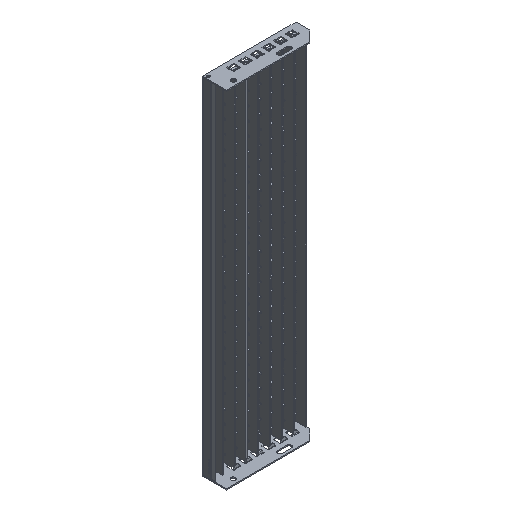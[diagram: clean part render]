
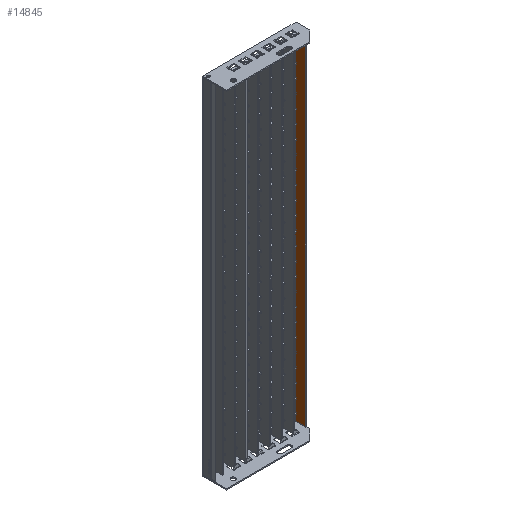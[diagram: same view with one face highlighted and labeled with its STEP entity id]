
A CAD part, isometric view. The second image highlights one B-rep face of the part: STEP entity #14845.
In plain terms, the highlighted planar face has unit normal (-1, 0, 0) as drawn and (1, 0, 0) by its records, which use the part's own axes.
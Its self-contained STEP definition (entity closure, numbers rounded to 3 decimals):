
#1657=FACE_OUTER_BOUND('',#2544,.T.);
#2544=EDGE_LOOP('',(#13747,#13748,#13749,#13750));
#3768=LINE('',#30490,#4995);
#3770=LINE('',#30494,#4997);
#3771=LINE('',#30496,#4998);
#3772=LINE('',#30497,#4999);
#4995=VECTOR('',#21023,10.);
#4997=VECTOR('',#21027,10.);
#4998=VECTOR('',#21028,10.);
#4999=VECTOR('',#21029,10.);
#7306=VERTEX_POINT('',#30487);
#7307=VERTEX_POINT('',#30489);
#7308=VERTEX_POINT('',#30493);
#7309=VERTEX_POINT('',#30495);
#9454=EDGE_CURVE('',#7307,#7306,#3768,.T.);
#9456=EDGE_CURVE('',#7306,#7308,#3770,.T.);
#9457=EDGE_CURVE('',#7309,#7308,#3771,.T.);
#9458=EDGE_CURVE('',#7309,#7307,#3772,.T.);
#13747=ORIENTED_EDGE('',*,*,#9456,.T.);
#13748=ORIENTED_EDGE('',*,*,#9457,.F.);
#13749=ORIENTED_EDGE('',*,*,#9458,.T.);
#13750=ORIENTED_EDGE('',*,*,#9454,.T.);
#14109=PLANE('',#16609);
#14845=ADVANCED_FACE('',(#1657),#14109,.T.);
#16609=AXIS2_PLACEMENT_3D('',#30492,#21025,#21026);
#21023=DIRECTION('',(0.,1.,0.));
#21025=DIRECTION('center_axis',(1.,0.,0.));
#21026=DIRECTION('ref_axis',(0.,0.,-1.));
#21027=DIRECTION('',(0.,0.,1.));
#21028=DIRECTION('',(0.,1.,0.));
#21029=DIRECTION('',(0.,0.,-1.));
#30487=CARTESIAN_POINT('',(0.,994.,-30.));
#30489=CARTESIAN_POINT('',(0.,0.,-30.));
#30490=CARTESIAN_POINT('',(0.,0.,-30.));
#30492=CARTESIAN_POINT('Origin',(0.,0.,-30.));
#30493=CARTESIAN_POINT('',(0.,994.,0.));
#30494=CARTESIAN_POINT('',(0.,994.,0.));
#30495=CARTESIAN_POINT('',(0.,0.,0.));
#30496=CARTESIAN_POINT('',(0.,0.,0.));
#30497=CARTESIAN_POINT('',(0.,0.,0.));
